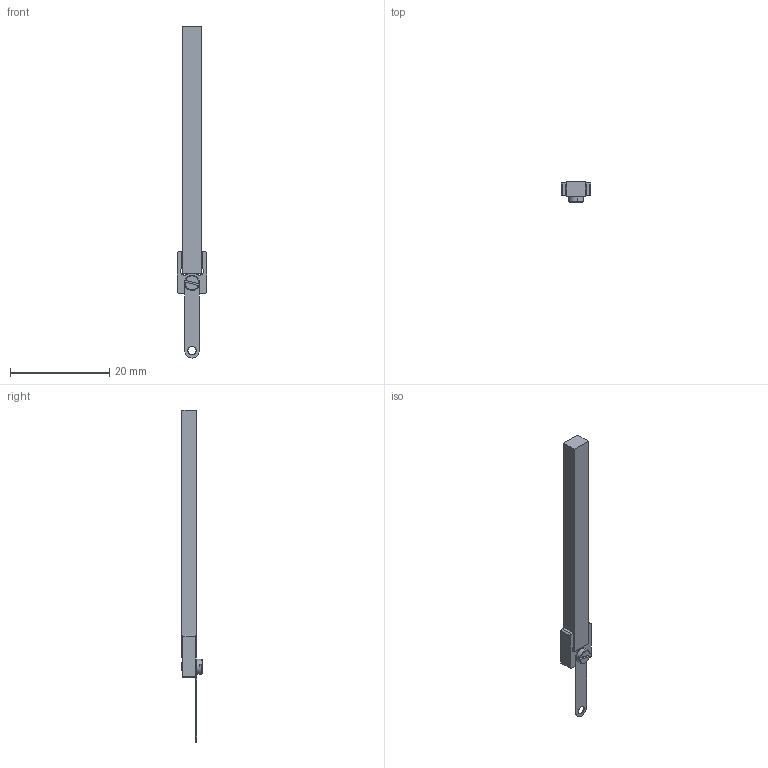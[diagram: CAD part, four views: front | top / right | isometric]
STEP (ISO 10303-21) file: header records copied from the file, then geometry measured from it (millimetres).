
FILE_DESCRIPTION (( 'STEP AP214' ), '1' );
FILE_NAME ('LT2020D_DriveRod_050D1D2-PiezoMotor.STEP', '2017-06-08T12:15:11', ( '' ), ( '' ), 'SwSTEP 2.0', 'SolidWorks 2016', '' );
FILE_SCHEMA (( 'AUTOMOTIVE_DESIGN' ));
Length unit declared in the file: millimetre
Products named in the file (2): LT2020D_DriveRod_050D1D2-PiezoMotor
Bounding box: 6 x 4.1 x 66.95 mm (x, y, z)
Volume: 700.2 mm3; surface area: 1031.2 mm2
Topology: 4 solids, 4 shells, 54 faces, 130 edges, 85 vertices
Faces by surface type: plane 27, cylinder 20, cone 7
Entity records: 1677 total; most frequent: DIRECTION 289, CARTESIAN_POINT 283, ORIENTED_EDGE 260, EDGE_CURVE 130, AXIS2_PLACEMENT_3D 107, VERTEX_POINT 85, VECTOR 75, LINE 75
